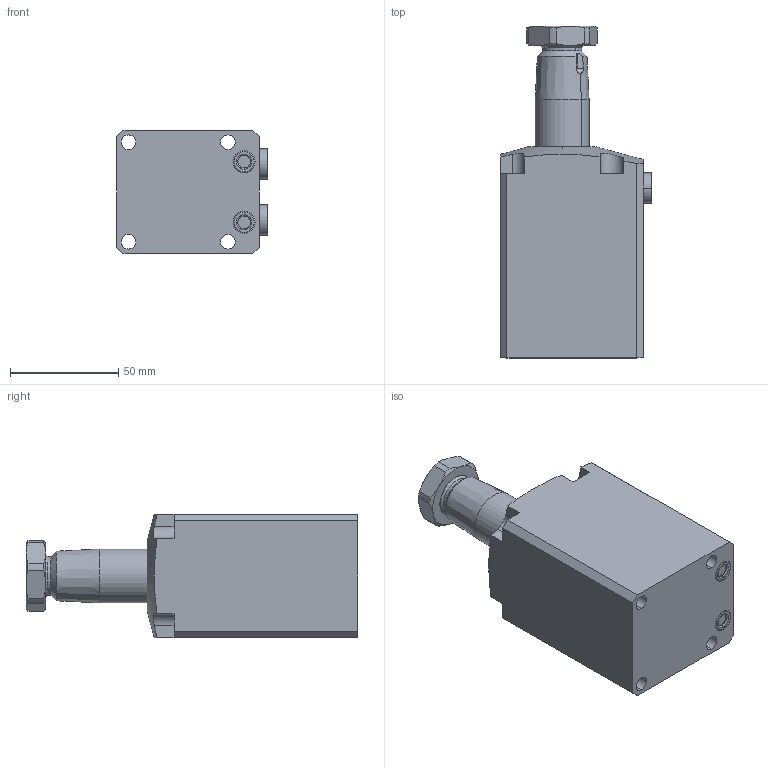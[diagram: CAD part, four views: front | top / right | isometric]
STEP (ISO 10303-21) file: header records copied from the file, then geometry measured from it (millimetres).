
FILE_DESCRIPTION(/* description */ (''),/* implementation_level */ '2;1');
FILE_NAME(/* name */ 'BRC06-LN45.stp',/* time_stamp */ '2025-01-05T09:17:33+08:00',/* author */ (''),/* organization */ (''),/* preprocessor_version */ 'ST-DEVELOPER v16.7',/* originating_system */ 'SIEMENS PLM Software NX 12.0',/* authorisation */ '');
FILE_SCHEMA (('AUTOMOTIVE_DESIGN { 1 0 10303 214 3 1 1 1 }'));
Length unit declared in the file: millimetre
Products named in the file (5): BRC06-LN45-03; BRC06-LN45-04; BRC06-LN45-02; BRC06-LN45-01; BRC06-LN45_stp
Assembly tree (5 placements, depth 2):
  BRC06-LN45_stp
    BRC06-LN45-01
    BRC06-LN45-02
    BRC06-LN45-04  x2
    BRC06-LN45-03
Bounding box: 69.8 x 153.4 x 57 mm (x, y, z)
Volume: 360788.3 mm3; surface area: 48001.2 mm2
Topology: 7 solids, 7 shells, 172 faces, 395 edges, 244 vertices
Faces by surface type: plane 66, cylinder 55, cone 34, torus 16, sphere 1
Entity records: 4580 total; most frequent: CARTESIAN_POINT 945, DIRECTION 762, ORIENTED_EDGE 704, EDGE_CURVE 352, AXIS2_PLACEMENT_3D 305, VERTEX_POINT 218, EDGE_LOOP 172, ADVANCED_FACE 152
